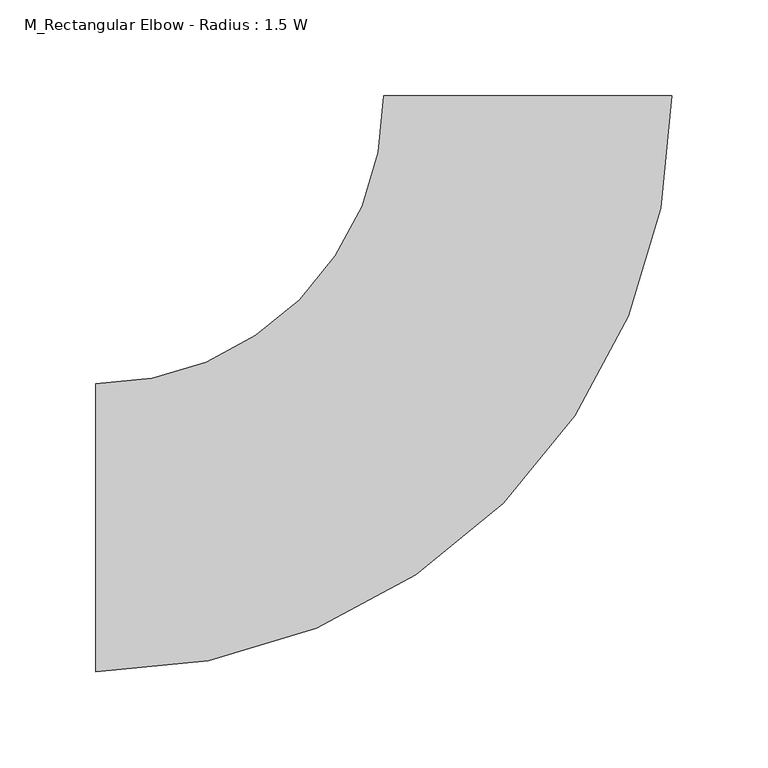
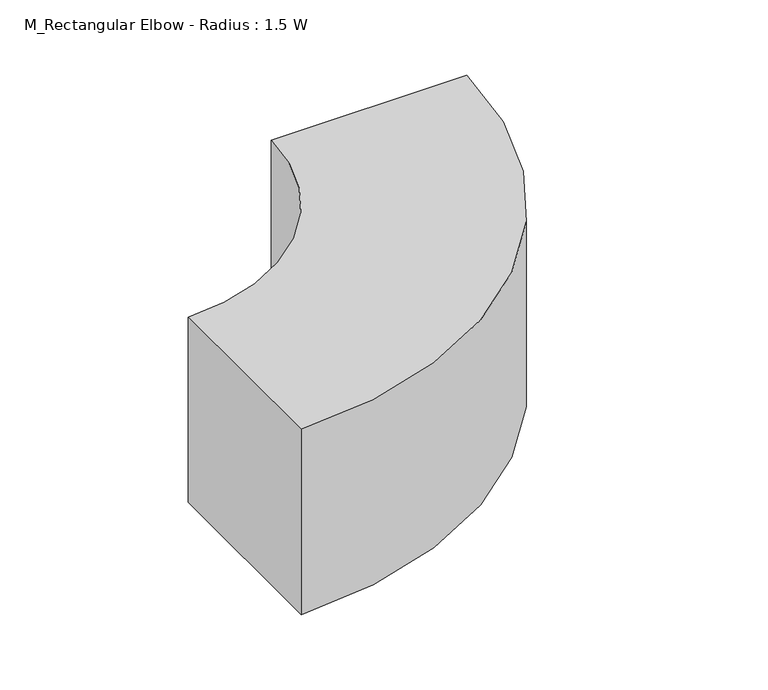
"""IFC4 building model written with IfcOpenShell, lengths in millimetres: duct fitting geometry, M_Rectangular Elbow - Radius : 1.5 W."""

from ifc_helpers import new_model, si_unit, point, frame, frame_2d, origin, place, context, project, spatial, polyline, circle_curve, trimmed, segment, composite_curve, outline, extrude, source, transform, mapped, element, save


def m_rectangular_elbow_radius_1_5_w_34375731(model_context):
    return source(origin(), model_context, "Body", "SweptSolid", [
        extrude(outline(composite_curve([segment(trimmed(circle_curve(frame_2d((-225.0, 225.0)), 300.0), [point((75.0, 225.0))], [point((-225.0, -75.0))], False, "CARTESIAN"), True, "CONTINUOUS"), segment(polyline([(-225.0, -75.0), (-225.0, 75.0)]), True, "CONTINUOUS"), segment(trimmed(circle_curve(frame_2d((-225.0, 225.0)), 150.0), [point((-225.0, 75.0))], [point((-75.0, 225.0))], True, "CARTESIAN"), True, "CONTINUOUS"), segment(polyline([(-75.0, 225.0), (75.0, 225.0)]), True, "CONTINUOUS")], self_intersect=False)), frame((0.0, 0.0, -75.0), z_axis=(0.0, 0.0, 1.0), x_axis=(1.0, 0.0, 0.0)), (0.0, 0.0, 1.0), 150.0),
        extrude(outline(composite_curve([segment(trimmed(circle_curve(frame_2d((-225.0, 225.0)), 300.0), [point((75.0, 225.0))], [point((-225.0, -75.0))], False, "CARTESIAN"), True, "CONTINUOUS"), segment(polyline([(-225.0, -75.0), (-225.0, 75.0)]), True, "CONTINUOUS"), segment(trimmed(circle_curve(frame_2d((-225.0, 225.0)), 150.0), [point((-225.0, 75.0))], [point((-75.0, 225.0))], True, "CARTESIAN"), True, "CONTINUOUS"), segment(polyline([(-75.0, 225.0), (75.0, 225.0)]), True, "CONTINUOUS")], self_intersect=False)), frame((0.0, 0.0, -75.0), z_axis=(0.0, 0.0, 1.0), x_axis=(1.0, 0.0, 0.0)), (0.0, 0.0, 1.0), 150.0),
        extrude(outline(composite_curve([segment(trimmed(circle_curve(frame_2d((-225.0, 225.0)), 300.0), [point((75.0, 225.0))], [point((-225.0, -75.0))], False, "CARTESIAN"), True, "CONTINUOUS"), segment(polyline([(-225.0, -75.0), (-225.0, 75.0)]), True, "CONTINUOUS"), segment(trimmed(circle_curve(frame_2d((-225.0, 225.0)), 150.0), [point((-225.0, 75.0))], [point((-75.0, 225.0))], True, "CARTESIAN"), True, "CONTINUOUS"), segment(polyline([(-75.0, 225.0), (75.0, 225.0)]), True, "CONTINUOUS")], self_intersect=False)), frame((0.0, 0.0, -75.0), z_axis=(0.0, 0.0, 1.0), x_axis=(1.0, 0.0, 0.0)), (0.0, 0.0, 1.0), 150.0),
    ])


if __name__ == "__main__":
    model = new_model("IFC4")
    model_context = context("Model", 3, world=origin())
    ifc_project = project(units=[si_unit("LENGTHUNIT", "METRE", prefix="MILLI")], contexts=[model_context])
    site = spatial("IfcSite", under=ifc_project)
    building = spatial("IfcBuilding", under=site)
    placement = place(None, origin())
    m_rectangular_elbow_radius_1_5_w_shape = m_rectangular_elbow_radius_1_5_w_34375731(model_context)
    element("IfcDuctFitting", 1, ObjectType="M_Rectangular Elbow - Radius : 1.5 W", at=placement, inside=building, context=model_context, shape_type="MappedRepresentation", body=[
        mapped(m_rectangular_elbow_radius_1_5_w_shape, transform((0.0, 0.0, 0.0), x_axis=(1.0, 0.0, 0.0), y_axis=(0.0, 1.0, 0.0), z_axis=(0.0, 0.0, 1.0))),
    ])
    save(model, "model.ifc")
